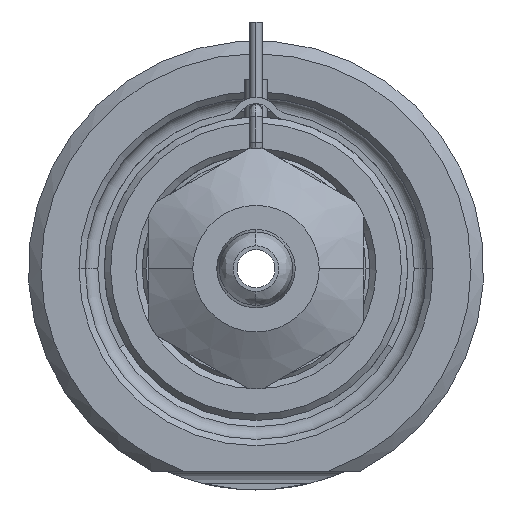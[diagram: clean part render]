
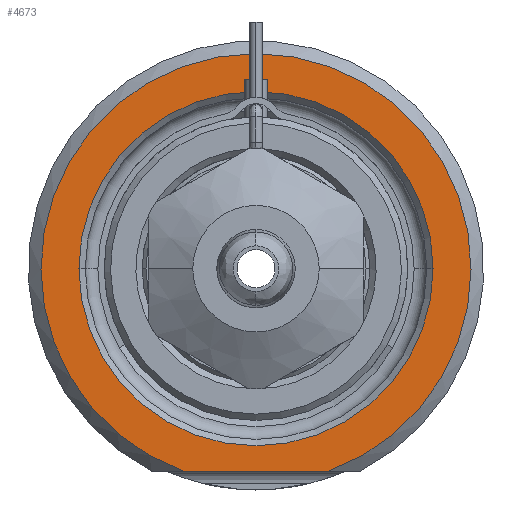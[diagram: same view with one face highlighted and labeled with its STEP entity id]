
A CAD part, front view. The second image highlights one B-rep face of the part: STEP entity #4673.
In plain terms, the highlighted planar face has unit normal (0, -1, 0).
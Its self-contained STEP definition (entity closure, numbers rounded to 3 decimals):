
#1393=DIRECTION('',(1.,0.,0.));
#1394=VECTOR('',#1393,11.489);
#1395=CARTESIAN_POINT('',(-5.745,0.,-16.));
#1396=LINE('',#1395,#1394);
#1397=CARTESIAN_POINT('',(0.,0.,0.));
#1398=DIRECTION('',(0.,1.,0.));
#1399=DIRECTION('',(-1.,0.,0.));
#1400=AXIS2_PLACEMENT_3D('',#1397,#1398,#1399);
#1402=CARTESIAN_POINT('',(0.,0.,0.));
#1403=DIRECTION('',(0.,1.,0.));
#1404=DIRECTION('',(1.,0.,0.));
#1405=AXIS2_PLACEMENT_3D('',#1402,#1403,#1404);
#1509=CARTESIAN_POINT('',(0.,0.,0.));
#1510=DIRECTION('',(0.,-1.,0.));
#1511=DIRECTION('',(0.338,0.,-0.941));
#1512=AXIS2_PLACEMENT_3D('',#1509,#1510,#1511);
#2475=CARTESIAN_POINT('',(-14.,0.,0.));
#2476=CARTESIAN_POINT('',(14.,0.,0.));
#2477=VERTEX_POINT('',#2475);
#2478=VERTEX_POINT('',#2476);
#2515=CARTESIAN_POINT('',(-5.745,0.,-16.));
#2516=CARTESIAN_POINT('',(5.745,0.,-16.));
#2517=VERTEX_POINT('',#2515);
#2518=VERTEX_POINT('',#2516);
#4657=CARTESIAN_POINT('',(0.,0.,0.));
#4658=DIRECTION('',(0.,-1.,0.));
#4659=DIRECTION('',(1.,0.,0.));
#4660=AXIS2_PLACEMENT_3D('',#4657,#4658,#4659);
#4661=PLANE('',#4660);
#4663=ORIENTED_EDGE('',*,*,#4662,.F.);
#4665=ORIENTED_EDGE('',*,*,#4664,.F.);
#4666=EDGE_LOOP('',(#4663,#4665));
#4667=FACE_OUTER_BOUND('',#4666,.F.);
#4669=ORIENTED_EDGE('',*,*,#4668,.F.);
#4670=ORIENTED_EDGE('',*,*,#4647,.F.);
#4671=EDGE_LOOP('',(#4669,#4670));
#4672=FACE_BOUND('',#4671,.F.);
#4673=ADVANCED_FACE('',(#4667,#4672),#4661,.T.);
#1401=CIRCLE('',#1400,14.);
#1406=CIRCLE('',#1405,14.);
#1513=CIRCLE('',#1512,17.);
#4647=EDGE_CURVE('',#2478,#2477,#1406,.T.);
#4662=EDGE_CURVE('',#2517,#2518,#1396,.T.);
#4664=EDGE_CURVE('',#2518,#2517,#1513,.T.);
#4668=EDGE_CURVE('',#2477,#2478,#1401,.T.);
